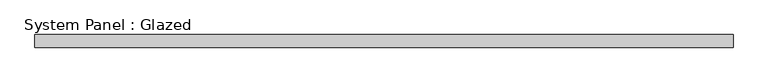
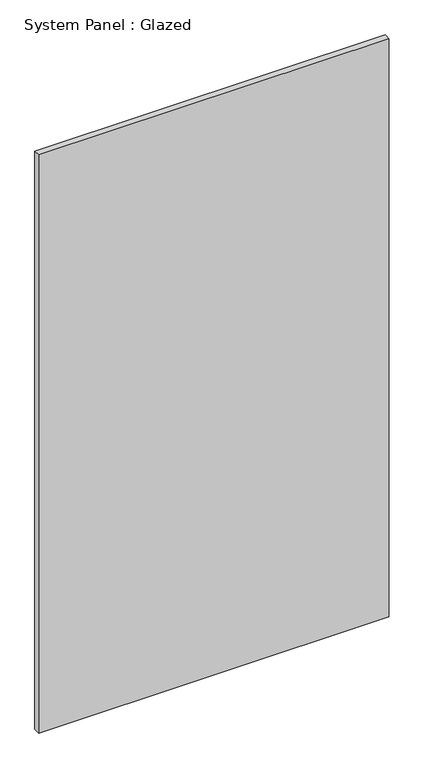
"""IFC4 building model written with IfcOpenShell, lengths in millimetres: plate geometry, System Panel : Glazed."""

from ifc_helpers import new_model, si_unit, origin, origin_with_axes, place, context, project, spatial, polyline, outline, extrude, source, transform, mapped, element, save


def system_panel_glazed_3870392c(model_context):
    return source(origin(), model_context, "Body", "SweptSolid", [
        extrude(outline(polyline([(681.2988156, 19.05), (-681.2988156, 19.05), (-681.2988156, 44.45), (681.2988156, 44.45), (681.2988156, 19.05)])), origin_with_axes(), (0.0, 0.0, 1.0), 2374.9),
    ])


if __name__ == "__main__":
    model = new_model("IFC4")
    model_context = context("Model", 3, world=origin())
    ifc_project = project(units=[si_unit("LENGTHUNIT", "METRE", prefix="MILLI")], contexts=[model_context])
    site = spatial("IfcSite", under=ifc_project)
    building = spatial("IfcBuilding", under=site)
    placement = place(None, origin())
    system_panel_glazed_shape = system_panel_glazed_3870392c(model_context)
    element("IfcPlate", 1, ObjectType="System Panel : Glazed", at=placement, inside=building, context=model_context, shape_type="MappedRepresentation", body=[
        mapped(system_panel_glazed_shape, transform((0.0, 0.0, 0.0), x_axis=(1.0, 0.0, 0.0), y_axis=(0.0, 1.0, 0.0), z_axis=(0.0, 0.0, 1.0))),
    ])
    save(model, "model.ifc")
